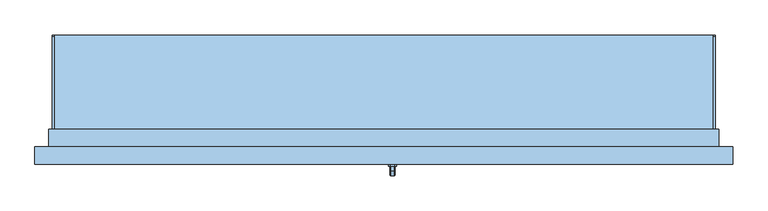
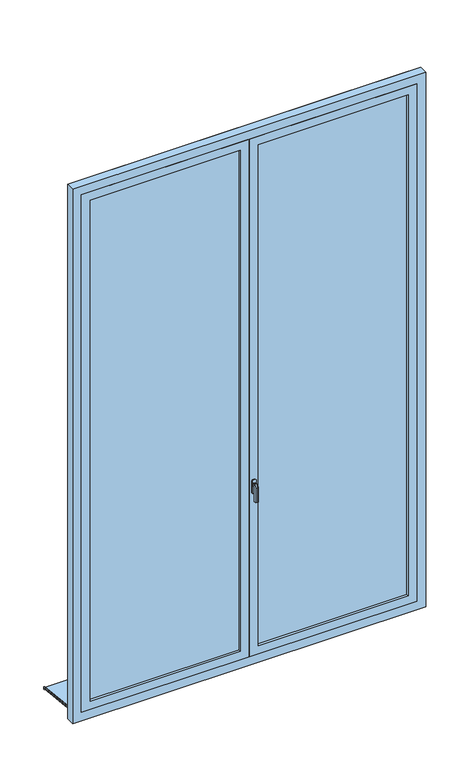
"""IFC4 building model written with IfcOpenShell, lengths in millimetres: window geometry, Fenêtres - PF 2 Vantaux - Droits - 1.90 x 3.15."""

import ifcopenshell
import ifcopenshell.guid

model = None  # the IFC model being written
_history = None  # IfcOwnerHistory: only IFC2X3 demands one
_inside = {}  # id of a spatial element -> (the spatial element, [elements in it])
_under = {}  # id of a project, library or spatial element -> (it, [spatial elements below it])
_declared = {}  # id of a project -> (the project, [libraries it declares])
_typed = {}  # id of a type object -> (the type object, [elements of that type])
_made_of = {}  # id of a material, layer set ... -> (it, [elements and type objects made of it])


def new_model(schema):
    """Start an empty IFC model of exactly this schema.

    Asked for "IFC4X3", IfcOpenShell would pick the latest addendum, in which some entities
    have other attributes; the version numbers below select the first issue.
    IFC2X3 requires an IfcOwnerHistory on every rooted entity: one is made here for all.
    """
    global model, _history
    if schema == "IFC4X3":
        model = ifcopenshell.file(schema_version=(4, 3, 0, 0))
    else:
        model = ifcopenshell.file(schema=schema)
    _inside.clear()
    _under.clear()
    _declared.clear()
    _typed.clear()
    _made_of.clear()
    _history = None
    if model.schema == "IFC2X3":
        org = make("IfcOrganization", Name="unknown")
        user = make(
            "IfcPersonAndOrganization",
            ThePerson=make("IfcPerson", FamilyName="unknown"),
            TheOrganization=org,
        )
        app = make(
            "IfcApplication",
            ApplicationDeveloper=org,
            Version="unknown",
            ApplicationFullName="unknown",
            ApplicationIdentifier="unknown",
        )
        _history = make(
            "IfcOwnerHistory",
            OwningUser=user,
            OwningApplication=app,
            ChangeAction="ADDED",
            CreationDate=0,
        )
    return model


def make(cls, **values):
    """One entity of the class cls with the attributes given. An attribute that is None is left unset."""
    return model.create_entity(
        cls, **{name: value for name, value in values.items() if value is not None}
    )


def rooted(cls, **values):
    """An entity with a GlobalId (a new one), such as an element, a storey or a relation."""
    return make(cls, GlobalId=ifcopenshell.guid.new(), OwnerHistory=_history, **values)


def si_unit(unit_type, name, prefix=None):
    """IfcSIUnit, for example si_unit("LENGTHUNIT", "METRE", prefix="MILLI")."""
    return make("IfcSIUnit", UnitType=unit_type, Prefix=prefix, Name=name)


def assignment(units):
    """IfcUnitAssignment: the units of a project."""
    return None if units is None else make("IfcUnitAssignment", Units=units)


def point(xyz):
    """IfcCartesianPoint."""
    return None if xyz is None else make("IfcCartesianPoint", Coordinates=xyz)


def direction(xyz):
    """IfcDirection."""
    return None if xyz is None else make("IfcDirection", DirectionRatios=xyz)


def frame(location, z_axis=None, x_axis=None):
    """IfcAxis2Placement3D, a coordinate frame: its origin and axes. An axis left out is left unset."""
    return make(
        "IfcAxis2Placement3D",
        Location=point(location),
        Axis=direction(z_axis),
        RefDirection=direction(x_axis),
    )


def frame_2d(location, x_axis=None):
    """IfcAxis2Placement2D, a coordinate frame in the plane: its origin and x axis."""
    return make(
        "IfcAxis2Placement2D", Location=point(location), RefDirection=direction(x_axis)
    )


def origin():
    """The frame at (0, 0, 0) with its axes left unset."""
    return frame((0.0, 0.0, 0.0))


def place(relative_to, where):
    """IfcLocalPlacement: puts the frame where relative to a parent placement (None: the world)."""
    return make(
        "IfcLocalPlacement", PlacementRelTo=relative_to, RelativePlacement=where
    )


def context(
    kind, dimensions, precision=None, world=None, true_north=None, identifier=None
):
    """IfcGeometricRepresentationContext, for example the 3D "Model" context."""
    return make(
        "IfcGeometricRepresentationContext",
        ContextIdentifier=identifier,
        ContextType=kind,
        CoordinateSpaceDimension=dimensions,
        Precision=precision,
        WorldCoordinateSystem=world,
        TrueNorth=true_north,
    )


def project(units=None, contexts=None):
    """IfcProject with its units and contexts."""
    return rooted(
        "IfcProject",
        Name="project",
        RepresentationContexts=contexts,
        UnitsInContext=assignment(units),
    )


def spatial(cls, under=None, at=None, **own):
    """A site, building, storey or space (cls), placed at a placement, below another one or the project."""
    s = rooted(cls, ObjectPlacement=at, **own)
    if under is not None:
        _under.setdefault(under.id(), (under, []))[1].append(s)
    return s


def polyline(points):
    """IfcPolyline through the points."""
    return make("IfcPolyline", Points=[point(p) for p in points])


def circle_curve(where, radius):
    """IfcCircle in the frame where."""
    return make("IfcCircle", Position=where, Radius=radius)


def trimmed(basis, trim1, trim2, sense, master):
    """IfcTrimmedCurve: the piece of a basis curve between two trims."""
    return make(
        "IfcTrimmedCurve",
        BasisCurve=basis,
        Trim1=trim1,
        Trim2=trim2,
        SenseAgreement=sense,
        MasterRepresentation=master,
    )


def segment(curve, same_sense, transition):
    """IfcCompositeCurveSegment."""
    return make(
        "IfcCompositeCurveSegment",
        Transition=transition,
        SameSense=same_sense,
        ParentCurve=curve,
    )


def composite_curve(segments, self_intersect=None):
    """IfcCompositeCurve: segments joined end to end."""
    return make("IfcCompositeCurve", Segments=segments, SelfIntersect=self_intersect)


def outline(outer, holes=None, kind="AREA"):
    """IfcArbitraryClosedProfileDef: a profile drawn as a closed curve; with holes, ...WithVoids."""
    if holes is None:
        return make("IfcArbitraryClosedProfileDef", ProfileType=kind, OuterCurve=outer)
    return make(
        "IfcArbitraryProfileDefWithVoids",
        ProfileType=kind,
        OuterCurve=outer,
        InnerCurves=holes,
    )


def extrude(swept, where, along, depth):
    """IfcExtrudedAreaSolid: the profile swept, set in the frame where, extruded along a direction by depth."""
    return make(
        "IfcExtrudedAreaSolid",
        SweptArea=swept,
        Position=where,
        ExtrudedDirection=direction(along),
        Depth=depth,
    )


def faces_of(points, faces, orient=None, outer=None):
    """IfcFace entities. A face is a list of loops; a loop is a list of indices into points, from 0.

    orient and outer hold one flag for each loop. By default every Orientation is true, the
    first loop of a face is its IfcFaceOuterBound and the others are IfcFaceBound.
    """
    made = []
    for i, loops in enumerate(faces):
        bounds = []
        for j, loop in enumerate(loops):
            is_outer = j == 0 if outer is None else outer[i][j]
            bounds.append(
                make(
                    "IfcFaceOuterBound" if is_outer else "IfcFaceBound",
                    Bound=make("IfcPolyLoop", Polygon=[points[k] for k in loop]),
                    Orientation=True if orient is None else orient[i][j],
                )
            )
        made.append(make("IfcFace", Bounds=bounds))
    return made


def faceted_brep(points, faces, orient=None, outer=None, voids=None):
    """IfcFacetedBrep: a solid bounded by flat faces; with voids (closed shells), ...WithVoids."""
    shared = [point(p) for p in points]
    hull = make("IfcClosedShell", CfsFaces=faces_of(shared, faces, orient, outer))
    if voids is None:
        return make("IfcFacetedBrep", Outer=hull)
    return make(
        "IfcFacetedBrepWithVoids",
        Outer=hull,
        Voids=[
            make(cls, CfsFaces=faces_of(shared, fs, o, b)) for cls, fs, o, b in voids
        ],
    )


def shape(context_of_items, identifier, shape_type, items):
    """IfcShapeRepresentation: the items that make up one representation, for example the "Body"."""
    return make(
        "IfcShapeRepresentation",
        ContextOfItems=context_of_items,
        RepresentationIdentifier=identifier,
        RepresentationType=shape_type,
        Items=items,
    )


def source(mapping_origin, context_of_items, identifier, shape_type, items):
    """IfcRepresentationMap: a shape defined once, which mapped items show again and again."""
    return make(
        "IfcRepresentationMap",
        MappingOrigin=mapping_origin,
        MappedRepresentation=shape(context_of_items, identifier, shape_type, items),
    )


def transform(
    local_origin,
    x_axis=None,
    y_axis=None,
    z_axis=None,
    scale=None,
    scale2=None,
    scale3=None,
    uniform=True,
):
    """IfcCartesianTransformationOperator3D, or its non-uniform kind. x_axis, y_axis, z_axis: its Axis1, 2, 3."""
    if uniform:
        return make(
            "IfcCartesianTransformationOperator3D",
            Axis1=direction(x_axis),
            Axis2=direction(y_axis),
            LocalOrigin=point(local_origin),
            Scale=scale,
            Axis3=direction(z_axis),
        )
    return make(
        "IfcCartesianTransformationOperator3DnonUniform",
        Axis1=direction(x_axis),
        Axis2=direction(y_axis),
        LocalOrigin=point(local_origin),
        Scale=scale,
        Axis3=direction(z_axis),
        Scale2=scale2,
        Scale3=scale3,
    )


def mapped(mapping_source, mapping_target):
    """IfcMappedItem: shows the shape of a source again, moved by a transform."""
    return make(
        "IfcMappedItem", MappingSource=mapping_source, MappingTarget=mapping_target
    )


def made_of(thing, what):
    """Note that an element or type object is made of a material, layer set ...; save() writes the relation."""
    if what is not None:
        _made_of.setdefault(what.id(), (what, []))[1].append(thing)
    return thing


def element(
    cls,
    number,
    at=None,
    inside=None,
    cuts=None,
    type_object=None,
    material=None,
    context=None,
    identifier="Body",
    shape_type=None,
    held_by="IfcProductDefinitionShape",
    body=None,
    shapes=None,
    **own,
):
    """One element of the class cls, such as IfcWall. Its Tag is "e" and its number.

    at: its placement. inside: the storey or other place that contains it. cuts: it is an
    opening in that element (IfcRelVoidsElement). A single representation is given by context,
    identifier, shape_type and body (its items); several are given by shapes. held_by: the class
    of the entity that holds the representations. save() writes the other relations.
    """
    e = rooted(cls, Tag="e%d" % number, ObjectPlacement=at, **own)
    if body is not None:
        shapes = [shape(context, identifier, shape_type, body)]
    if shapes is not None:
        e.Representation = make(held_by, Representations=shapes)
    if inside is not None:
        _inside.setdefault(inside.id(), (inside, []))[1].append(e)
    if cuts is not None:
        rooted(
            "IfcRelVoidsElement", RelatingBuildingElement=cuts, RelatedOpeningElement=e
        )
    if type_object is not None:
        _typed.setdefault(type_object.id(), (type_object, []))[1].append(e)
    return made_of(e, material)


def aggregate(whole, parts):
    """IfcRelAggregates: a whole, such as a stair, and the parts it consists of."""
    return rooted("IfcRelAggregates", RelatingObject=whole, RelatedObjects=parts)


def save(model, path):
    """Write the relations noted so far, then the file.

    IfcRelAggregates (storeys below a building ...), IfcRelContainedInSpatialStructure (elements
    in a storey), IfcRelDefinesByType, IfcRelAssociatesMaterial and IfcRelDeclares: one each for
    every whole, place, type object, material and project.
    """
    for whole, parts in _under.values():
        aggregate(whole, parts)
    for where, things in _inside.values():
        rooted(
            "IfcRelContainedInSpatialStructure",
            RelatedElements=things,
            RelatingStructure=where,
        )
    for kind, things in _typed.values():
        rooted("IfcRelDefinesByType", RelatedObjects=things, RelatingType=kind)
    for what, things in _made_of.values():
        rooted("IfcRelAssociatesMaterial", RelatedObjects=things, RelatingMaterial=what)
    for by, libraries in _declared.values():
        rooted("IfcRelDeclares", RelatingContext=by, RelatedDefinitions=libraries)
    model.write(path)


def window_a5bdb8dc(model_context):
    return source(origin(), model_context, "Body", "SolidModel", [
        extrude(outline(polyline([(690.0288776, 9.7719484), (690.0288776, -1.3062541), (685.0288776, -0.7807329), (685.0288776, 5.0422578), (400.0, 35.0), (400.0, 50.0), (405.0, 50.0), (405.0, 39.7296906), (690.0288776, 9.7719484)])), frame((50.0, 0.0, 0.0), z_axis=(1.0, 0.0, 0.0), x_axis=(0.0, 1.0, 0.0)), (0.0, 0.0, 1.0), 1900.0),
        extrude(outline(composite_curve([segment(polyline([(690.0288776, 9.7719484), (405.0, 39.7296906), (405.0, 44.757232), (686.4469915, 15.1759612)]), True, "CONTINUOUS"), segment(trimmed(circle_curve(frame_2d((686.0288776, 11.1978736)), 4.0), [point((686.4469915, 15.1759612))], [point((690.0288776, 11.1978736))], False, "CARTESIAN"), True, "CONTINUOUS"), segment(polyline([(690.0288776, 11.1978736), (690.0288776, 9.7719484)]), True, "CONTINUOUS")], self_intersect=False)), frame((50.0, 0.0, 0.0), z_axis=(1.0, 0.0, 0.0), x_axis=(0.0, 1.0, 0.0)), (0.0, 0.0, 1.0), 5.0),
        extrude(outline(composite_curve([segment(polyline([(690.0288776, 9.7719484), (405.0, 39.7296906), (405.0, 44.757232), (686.4469915, 15.1759612)]), True, "CONTINUOUS"), segment(trimmed(circle_curve(frame_2d((686.0288776, 11.1978736)), 4.0), [point((686.4469915, 15.1759612))], [point((690.0288776, 11.1978736))], False, "CARTESIAN"), True, "CONTINUOUS"), segment(polyline([(690.0288776, 11.1978736), (690.0288776, 9.7719484)]), True, "CONTINUOUS")], self_intersect=False)), frame((1945.0, 0.0, 0.0), z_axis=(1.0, 0.0, 0.0), x_axis=(0.0, 1.0, 0.0)), (0.0, 0.0, 1.0), 5.0),
        extrude(outline(polyline([(85.0, 1000.0), (3185.0, 1000.0), (3185.0, 50.0), (85.0, 50.0), (85.0, 1000.0)]), holes=[polyline([(135.0, 100.0), (3135.0, 100.0), (3135.0, 950.0), (135.0, 950.0), (135.0, 100.0)])]), frame((0.0, 320.0, 0.0), z_axis=(0.0, 1.0, 0.0), x_axis=(0.0, 0.0, 1.0)), (0.0, 0.0, 1.0), 40.0),
        extrude(outline(polyline([(1050.0, 346.0), (1900.0, 346.0), (1900.0, 334.0), (1050.0, 334.0), (1050.0, 346.0)])), frame((0.0, 0.0, 135.0), z_axis=(0.0, 0.0, 1.0), x_axis=(1.0, 0.0, 0.0)), (0.0, 0.0, 1.0), 3000.0),
        extrude(outline(polyline([(100.0, 346.0), (950.0, 346.0), (950.0, 334.0), (100.0, 334.0), (100.0, 346.0)])), frame((0.0, 0.0, 135.0), z_axis=(0.0, 0.0, 1.0), x_axis=(1.0, 0.0, 0.0)), (0.0, 0.0, 1.0), 3000.0),
        extrude(outline(polyline([(85.0, 1950.0), (3185.0, 1950.0), (3185.0, 1000.0), (85.0, 1000.0), (85.0, 1950.0)]), holes=[polyline([(135.0, 1050.0), (3135.0, 1050.0), (3135.0, 1900.0), (135.0, 1900.0), (135.0, 1050.0)])]), frame((0.0, 320.0, 0.0), z_axis=(0.0, 1.0, 0.0), x_axis=(0.0, 0.0, 1.0)), (0.0, 0.0, 1.0), 40.0),
        extrude(outline(polyline([(35.0, 40.0), (35.0, 50.0), (3185.0, 50.0), (3185.0, 1950.0), (35.0, 1950.0), (35.0, 1960.0), (3195.0, 1960.0), (3195.0, 40.0), (35.0, 40.0)])), frame((0.0, 370.0, 0.0), z_axis=(0.0, 1.0, 0.0), x_axis=(0.0, 0.0, 1.0)), (0.0, 0.0, 1.0), 50.0),
        extrude(outline(polyline([(1020.0, 368.0), (1020.0, 360.0), (980.0, 360.0), (980.0, 368.0), (1020.0, 368.0)])), frame((0.0, 0.0, 100.0), z_axis=(0.0, 0.0, 1.0), x_axis=(1.0, 0.0, 0.0)), (0.0, 0.0, 1.0), 3070.0),
        faceted_brep([(1019.3539903, 314.0, 1122.0339292), (1030.6460097, 314.0, 1122.0339292), (1032.0339292, 314.0, 1120.6460097), (1032.0339292, 314.0, 1109.3323012), (1030.6676988, 314.0, 1107.9660708), (1019.3323012, 314.0, 1107.9660708), (1017.9660708, 314.0, 1109.3323012), (1017.9660708, 314.0, 1120.6460097), (1032.0339292, 301.6613462, 1120.6460097), (1030.6460097, 301.0864511, 1122.0339292), (1032.0339292, 306.3476377, 1109.3323012), (1032.0339292, 288.3539903, 1107.3386538), (1032.0339292, 288.3539903, 1020.0), (1032.0339292, 299.6676988, 1020.0), (1032.0339292, 299.6676988, 1102.6523623), (1030.6676988, 306.9135489, 1107.9660708), (1019.3323012, 306.9135489, 1107.9660708), (1017.9660708, 306.3476377, 1109.3323012), (1017.9660708, 301.6613462, 1120.6460097), (1017.9660708, 299.6676988, 1102.6523623), (1017.9660708, 299.6676988, 1020.0), (1017.9660708, 288.3539903, 1020.0), (1017.9660708, 288.3539903, 1107.3386538), (1019.3539903, 301.0864511, 1122.0339292), (1030.6460097, 286.9660708, 1107.9135489), (1030.6676988, 301.0339292, 1102.0864511), (1019.3323012, 301.0339292, 1102.0864511), (1019.3539903, 286.9660708, 1107.9135489), (1030.6460097, 286.9660708, 1020.0), (1019.3539903, 286.9660708, 1020.0), (1019.3323012, 301.0339292, 1020.0), (1030.6676988, 301.0339292, 1020.0)], [[[0, 1, 2, 3, 4, 5, 6, 7]], [[8, 2, 1, 9]], [[10, 3, 2, 8, 11, 12, 13, 14]], [[15, 4, 3, 10]], [[16, 5, 4, 15]], [[17, 6, 5, 16]], [[18, 7, 6, 17, 19, 20, 21, 22]], [[23, 0, 7, 18]], [[9, 1, 0, 23]], [[11, 8, 9, 24]], [[25, 15, 10, 14]], [[26, 16, 15, 25]], [[19, 17, 16, 26]], [[27, 23, 18, 22]], [[24, 9, 23, 27]], [[12, 28, 29, 21, 20, 30, 31, 13]], [[12, 11, 24, 28]], [[31, 25, 14, 13]], [[30, 26, 25, 31]], [[20, 19, 26, 30]], [[29, 27, 22, 21]], [[28, 24, 27, 29]]]),
        faceted_brep([(2000.0, 320.0, 35.0), (0.0, 320.0, 35.0), (0.0, 370.0, 35.0), (50.0, 370.0, 35.0), (50.0, 400.0, 35.0), (1950.0, 400.0, 35.0), (1950.0, 370.0, 35.0), (2000.0, 370.0, 35.0), (0.0, 370.0, 3235.0), (0.0, 320.0, 3235.0), (2000.0, 370.0, 3235.0), (1950.0, 370.0, 74.3761425), (50.0, 370.0, 74.3761425), (1935.0, 370.0, 3170.0), (65.0, 370.0, 3170.0), (65.0, 370.0, 100.0), (1935.0, 370.0, 100.0), (50.0, 420.0, 60.9786829), (50.0, 420.0, 45.0), (50.0, 410.0, 45.0), (50.0, 410.0, 50.0), (50.0, 400.0, 50.0), (1950.0, 400.0, 50.0), (1950.0, 410.0, 50.0), (1950.0, 410.0, 45.0), (1950.0, 420.0, 45.0), (1950.0, 420.0, 60.9786829), (2000.0, 320.0, 3235.0), (50.0, 320.0, 3185.0), (1950.0, 320.0, 3185.0), (1950.0, 320.0, 85.0), (50.0, 320.0, 85.0), (65.0, 360.0, 3170.0), (65.0, 360.0, 100.0), (1935.0, 360.0, 100.0), (1935.0, 360.0, 3170.0), (1950.0, 360.0, 85.0), (1950.0, 360.0, 3185.0), (50.0, 360.0, 3185.0), (50.0, 360.0, 85.0)], [[[0, 1, 2, 3, 4, 5, 6, 7]], [[8, 2, 1, 9]], [[3, 2, 8, 10, 7, 6, 11, 12], [13, 14, 15, 16]], [[3, 12, 17, 18, 19, 20, 21, 4]], [[5, 4, 21, 22]], [[6, 5, 22, 23, 24, 25, 26, 11]], [[0, 7, 10, 27]], [[9, 1, 0, 27], [28, 29, 30, 31]], [[15, 14, 32, 33]], [[15, 33, 34, 16]], [[34, 35, 13, 16]], [[26, 17, 12, 11]], [[36, 37, 38, 39], [33, 32, 35, 34]], [[31, 39, 38, 28]], [[39, 31, 30, 36]], [[30, 29, 37, 36]], [[25, 18, 17, 26]], [[24, 19, 18, 25]], [[23, 20, 19, 24]], [[22, 21, 20, 23]], [[32, 14, 13, 35]], [[27, 10, 8, 9]], [[28, 38, 37, 29]]]),
        extrude(outline(polyline([(1140.0, 1032.0), (1140.0, 1018.0), (1135.0, 1013.0), (1065.0, 1013.0), (1060.0, 1018.0), (1060.0, 1032.0), (1065.0, 1037.0), (1135.0, 1037.0), (1140.0, 1032.0)])), frame((0.0, 314.0, 0.0), z_axis=(0.0, 1.0, 0.0), x_axis=(0.0, 0.0, 1.0)), (0.0, 0.0, 1.0), 6.0),
    ])


if __name__ == "__main__":
    model = new_model("IFC4")
    model_context = context("Model", 3, world=origin())
    ifc_project = project(units=[si_unit("LENGTHUNIT", "METRE", prefix="MILLI")], contexts=[model_context])
    site = spatial("IfcSite", under=ifc_project)
    building = spatial("IfcBuilding", under=site)
    placement = place(None, origin())
    window_shape = window_a5bdb8dc(model_context)
    element("IfcWindow", 1, ObjectType="Fenêtres - PF 2 Vantaux - Droits - 1.90 x 3.15", at=placement, inside=building, context=model_context, shape_type="MappedRepresentation", body=[
        mapped(window_shape, transform((0.0, 0.0, 0.0), x_axis=(1.0, 0.0, 0.0), y_axis=(0.0, 1.0, 0.0), z_axis=(0.0, 0.0, 1.0))),
    ])
    save(model, "model.ifc")
